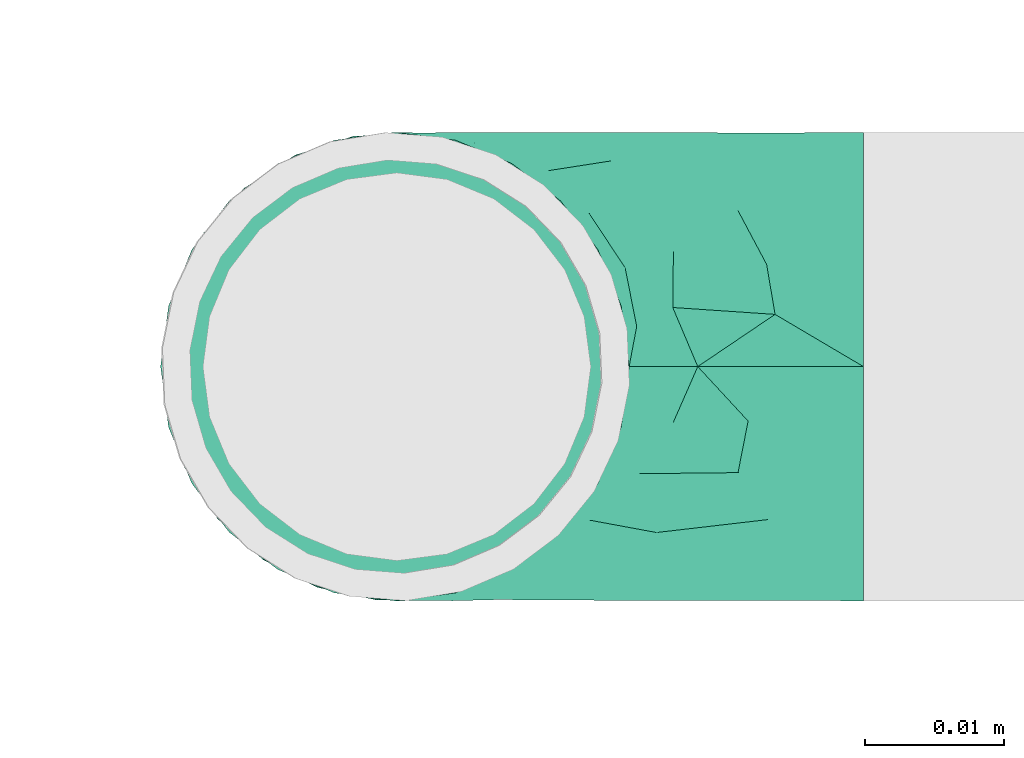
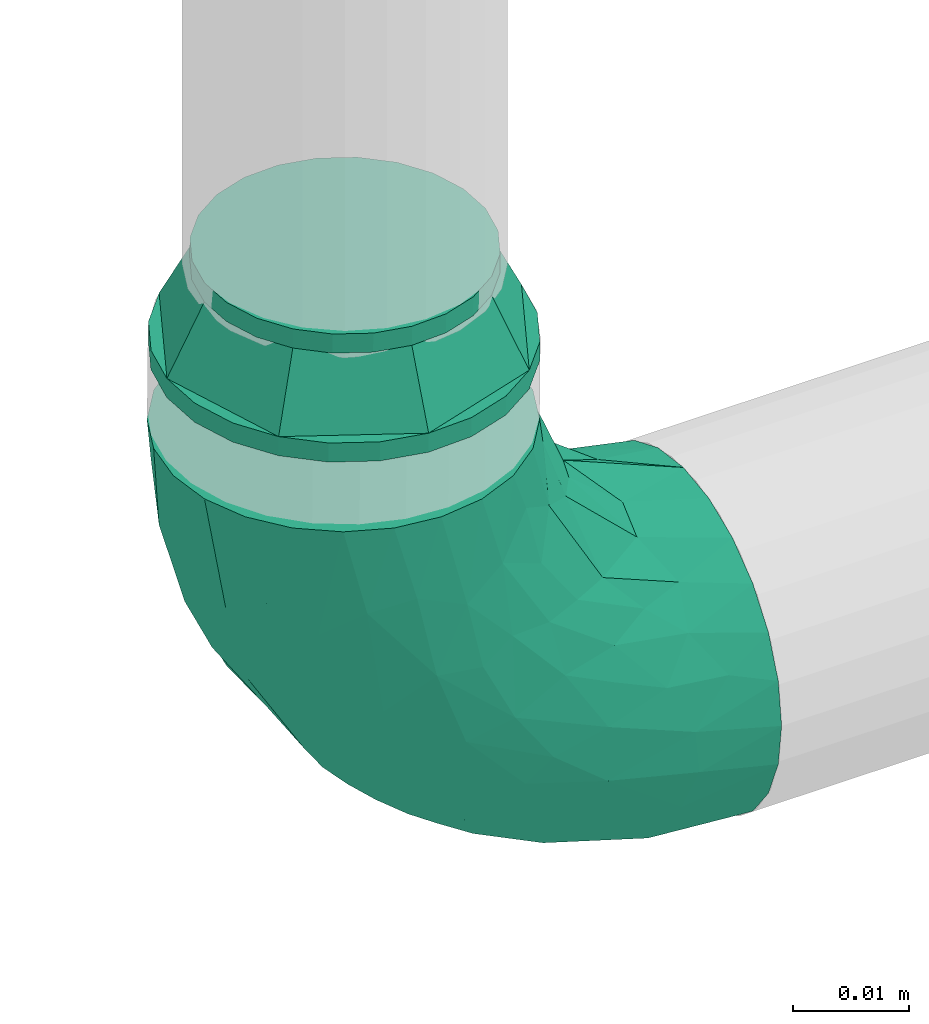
# One storey, part 30 of 43: 2 flow fittings.
"""IFC2X3 building model written with IfcOpenShell, lengths in millimetres."""

from ifc_helpers import new_model, entity, si_unit, converted_unit, derived_unit, direction, frame, origin_with_axes, place, context, subcontext, project, spatial, open_shell, surface_model, source, transform, mapped, type_object, element, save


model = new_model("IFC2X3")

# Units and contexts
model_context = context("Model", 3, precision=0.01, world=frame((0.0, 4.29681676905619e-09, 0.0)), true_north=direction((4.01073788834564e-13, 1.0)))
plan_context = context("Plan", 3, precision=0.01, world=frame((0.0, 4.29681676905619e-09, 0.0)), true_north=direction((4.01073788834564e-13, 1.0)))
body_context = subcontext(model_context, "Body", "Model", "MODEL_VIEW")
ifc_project = project(units=[converted_unit("PLANEANGLEUNIT", "DEGREE", entity("IfcPositiveLengthMeasure", 0.0174532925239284), si_unit("PLANEANGLEUNIT", "RADIAN"), dimensions=[0, 0, 0, 0, 0, 0, 0]), si_unit("AREAUNIT", "SQUARE_METRE"), si_unit("LENGTHUNIT", "METRE", prefix="MILLI"), si_unit("MASSUNIT", "GRAM", prefix="KILO"), si_unit("POWERUNIT", "WATT"), si_unit("PRESSUREUNIT", "PASCAL"), si_unit("FORCEUNIT", "NEWTON", prefix="KILO"), si_unit("ELECTRICVOLTAGEUNIT", "VOLT"), si_unit("ELECTRICCURRENTUNIT", "AMPERE"), si_unit("THERMODYNAMICTEMPERATUREUNIT", "DEGREE_CELSIUS"), si_unit("TIMEUNIT", "SECOND"), si_unit("VOLUMEUNIT", "CUBIC_METRE"), derived_unit("LINEARVELOCITYUNIT", [(si_unit("LENGTHUNIT", "METRE"), 1), (si_unit("TIMEUNIT", "SECOND"), -1)]), derived_unit("VOLUMETRICFLOWRATEUNIT", [(si_unit("VOLUMEUNIT", "CUBIC_METRE"), 1), (si_unit("TIMEUNIT", "SECOND"), -1)]), derived_unit("THERMALTRANSMITTANCEUNIT", [(si_unit("POWERUNIT", "WATT"), 1), (si_unit("THERMODYNAMICTEMPERATUREUNIT", "KELVIN"), -1), (si_unit("AREAUNIT", "SQUARE_METRE"), -1)]), derived_unit("SOUNDPRESSUREUNIT", [(si_unit("PRESSUREUNIT", "PASCAL"), 1)])], contexts=[model_context, plan_context])

# Site, building, storey
site_placement = place(None, frame((0.0, -4.29681676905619e-09, 0.0), z_axis=(0.0, 0.0, 1.0), x_axis=(1.0, 0.0, 0.0)))
site = spatial("IfcSite", under=ifc_project, at=site_placement, CompositionType="ELEMENT")
building_placement = place(site_placement, frame((0.0, 4.29681676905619e-09, 0.0), z_axis=(0.0, 0.0, 1.0), x_axis=(1.0, 0.0, 0.0)))
building = spatial("IfcBuilding", under=site, at=building_placement, Name="mc-building", CompositionType="ELEMENT")
storey_placement = place(building_placement, frame((0.0, 0.0, 210900.0), z_axis=(0.0, 0.0, 1.0), x_axis=(1.0, 0.0, 0.0)))
storey = spatial("IfcBuildingStorey", under=building, at=storey_placement, Name="Nivå F", CompositionType="ELEMENT", Elevation=210900.0)

# Flow fittings
pipe_fitting_type_1 = type_object("IfcPipeFittingType", Name="magi_pipe_fe_elbow_short_001", PredefinedType="BEND")
shared_shape_1 = source(origin_with_axes(), body_context, "Body", "SurfaceModel", [
    surface_model("IfcShellBasedSurfaceModel", [(-33.8, 4.37404, -16.32415), (-33.8, 0.0, -16.9), (-33.8, 11.9501, -11.9501), (-33.8, 8.45, -14.63583), (-33.8, 16.32415, -4.37404), (-33.8, 14.63583, -8.45), (-33.8, -14.63583, -8.45), (-33.8, -16.32415, -4.37404), (-33.8, -8.45, 14.63583), (-33.8, -11.9501, -11.9501), (-33.8, -8.45, -14.63583), (-33.8, -4.37404, -16.32415), (-33.8, -16.9, 0.0), (-33.8, -16.32415, 4.37404), (-33.8, 11.9501, 11.9501), (-33.8, 14.63583, 8.45), (-33.8, 16.32415, 4.37404), (-33.8, 4.37404, 16.32415), (-33.8, 8.45, 14.63583), (-33.8, -14.63583, 8.45), (-33.8, -11.9501, 11.9501), (-33.8, -4.37404, 16.32415), (-33.8, 0.0, 16.9), (-33.8, 16.9, 0.0), (-11.9501, 33.8, -11.9501), (0.0, 33.8, -16.9), (-4.37404, 33.8, -16.32415), (-8.45, 33.8, -14.63583), (-14.63583, 33.8, -8.45), (-16.32415, 33.8, -4.37404), (14.63583, 33.8, -8.45), (8.45, 33.8, 14.63583), (16.32415, 33.8, -4.37404), (8.45, 33.8, -14.63583), (11.9501, 33.8, -11.9501), (4.37404, 33.8, -16.32415), (16.32415, 33.8, 4.37404), (16.9, 33.8, 0.0), (-11.9501, 33.8, 11.9501), (-16.32415, 33.8, 4.37404), (-14.63583, 33.8, 8.45), (-8.45, 33.8, 14.63583), (-4.37404, 33.8, 16.32415), (11.9501, 33.8, 11.9501), (14.63583, 33.8, 8.45), (0.0, 33.8, 16.9), (4.37404, 33.8, 16.32415), (-16.9, 33.8, 0.0), (-24.79389, -13.12945, 9.48721), (-22.19287, -9.75018, 12.59315), (-24.09897, -14.97035, 0.0), (-14.93934, -10.76256, 8.5297), (-22.46095, -14.75051, 5.27077), (14.75051, 22.46094, 5.27077), (11.9251, 13.23888, 4.33236), (13.04069, 14.39795, 0.0), (7.71387, 13.68847, 11.55891), (9.75018, 22.19287, 12.59315), (4.10169, 13.0571, 14.04018), (-24.84007, -6.39063, 15.2048), (-25.81779, -2.23879, 16.61097), (-23.66549, 2.59054, 16.87119), (-26.50418, 14.06512, 11.08152), (-24.21253, 17.66365, 7.72657), (-29.58514, 15.86957, 7.00283), (-6.17382, -7.5455, 0.0), (-13.23888, -11.9251, 4.33236), (-14.39795, -13.04069, 0.0), (-17.81434, 18.87373, 11.97104), (-6.30846, 29.15138, 15.82987), (-2.31622, 25.28002, 16.85849), (-29.23923, 10.23435, 13.77053), (-1.45439, -2.85688, 7.61475), (-0.28326, 0.34872, 10.09509), (-5.74484, -4.04709, 10.4122), (-4.41137, 11.31918, 16.59407), (-8.39727, 3.10034, 15.7812), (-1.72649, 9.1306, 15.53089), (-17.39909, 24.75344, 7.64977), (-26.19233, 20.0512, 0.0), (-28.14518, 17.29657, 4.25857), (-26.05147, 6.6281, 15.96447), (-5.87354, 16.61944, 16.86968), (-12.51807, 12.51807, 16.48937), (-10.06312, 7.38516, 16.81295), (-3.01882, 3.01882, 13.81718), (-13.0571, -4.10169, 14.04018), (-16.82553, -0.15166, 16.38038), (10.76256, 14.93934, 8.5297), (13.12945, 24.79389, 9.48721), (6.39063, 24.84007, 15.2048), (2.23879, 25.81779, 16.61097), (-13.68847, -7.71387, 11.55891), (14.97035, 24.09897, 0.0), (-7.30894, 22.89991, 16.09489), (-10.67958, 26.17414, 14.008), (-12.78295, 18.26924, 15.06066), (-13.88562, 22.45231, 12.93244), (-18.04944, 15.16501, 14.04434), (-23.11658, 20.08178, 4.02986), (-21.84989, 21.84989, 0.0), (-18.55817, 25.48277, 3.93065), (-13.95142, 26.94732, 11.03289), (-18.57098, 7.23906, 16.59756), (-16.58335, 4.14122, 16.89279), (-17.96666, 11.46709, 15.63151), (-9.84453, 17.54304, 16.18938), (0.15166, 16.82553, 16.38038), (-23.27207, 11.47201, 14.23154), (3.84842, 5.86994, 10.70473), (-8.0212, -7.54413, 7.93275), (1.00345, -2.19508, 4.57414), (5.13203, 3.01004, 5.90201), (5.24161, 1.7543, 2.53265), (8.70457, 7.04947, 3.99182), (-20.0512, 26.19233, 0.0), (8.4852, 8.76699, 7.09296), (-4.55488, -6.72064, 4.90681), (2.05031, -2.05031, 0.0), (7.5455, 6.17382, 0.0), (-26.75399, 2.1369, -16.845), (-14.61995, 24.73803, -11.27736), (-28.45274, -13.45335, -9.81895), (-26.00469, 6.63555, -15.96645), (-23.06726, 20.04573, -4.26202), (-13.80647, -4.26506, -14.17873), (-14.67501, -0.21081, -16.07388), (-6.7902, -0.2828, -13.8478), (-24.53586, 11.08096, -14.13417), (-26.72048, 14.00837, -11.05776), (10.0967, 24.44989, -12.75976), (5.83237, 21.40218, -15.03047), (6.66249, 28.54238, -15.38093), (-20.38182, 15.48705, -12.74596), (-15.65186, 19.64213, -13.01327), (-12.03528, 20.66498, -14.67665), (-15.61907, 15.61906, -14.83879), (-25.56551, -15.26206, 0.0), (-24.65452, -15.12934, -5.50955), (12.53268, 21.23441, -9.15363), (13.45335, 28.45274, -9.81895), (15.12934, 24.65452, -5.50955), (-7.35442, -8.31014, -5.65563), (-15.67504, -12.54494, -5.54878), (-24.44989, -10.0967, -12.75976), (0.16522, 0.41303, -9.71728), (-5.70658, -5.33066, -8.89288), (-5.13869, -2.37198, -11.53565), (-21.23441, -12.53268, -9.15363), (0.71146, 7.93863, -14.09382), (0.21081, 14.67501, -16.07388), (3.49291, 14.42772, -14.76381), (-24.89911, -2.13088, -16.591), (-28.54238, -6.66249, -15.38093), (-18.44386, -7.71663, -13.26957), (2.13088, 24.89911, -16.591), (-28.64342, 17.44413, -2.89318), (1.70017, -1.28722, -5.09504), (-16.57067, 26.81947, -7.36596), (-17.69055, 27.4263, -3.76405), (-12.89279, -9.7522, -8.66343), (-5.96611, 5.96611, -15.95814), (-20.53709, 20.09345, -8.28985), (-2.1369, 26.75399, -16.845), (-6.89872, 24.58781, -16.02578), (-10.60739, 26.53157, -13.98044), (-21.40218, -5.83237, -15.03047), (2.93192, 5.89627, -11.55917), (6.89393, 12.61842, -11.82233), (5.58056, 5.95325, -8.79455), (-3.99512, 18.61798, -16.89635), (-9.1383, 9.86148, -16.89041), (-9.99983, 16.02119, -16.39699), (-16.68576, 9.78031, -16.34199), (-27.01915, 16.61158, -7.12979), (15.26206, 25.56551, 0.0), (-18.61798, 3.99512, -16.89635), (-19.37495, 27.82495, 0.0), (9.7522, 12.89279, -8.66343), (-12.61842, -6.89393, -11.82233), (8.31014, 7.35442, -5.65563), (-18.84705, 19.14018, -10.96545), (12.54494, 15.67504, -5.54878)], [open_shell([[[0, 1, 2]], [[3, 0, 2]], [[4, 5, 2]], [[6, 2, 1]], [[2, 7, 8]], [[9, 6, 10]], [[1, 11, 10]], [[10, 6, 1]], [[2, 6, 7]], [[12, 13, 7]], [[4, 2, 14]], [[4, 15, 16]], [[4, 14, 15]], [[17, 18, 14]], [[14, 2, 8]], [[17, 14, 8]], [[19, 20, 13]], [[20, 7, 13]], [[21, 22, 8]], [[20, 8, 7]], [[8, 22, 17]], [[4, 16, 23]], [[24, 25, 26]], [[24, 26, 27]], [[24, 28, 29]], [[25, 24, 30]], [[31, 32, 24]], [[33, 30, 34]], [[33, 35, 25]], [[25, 30, 33]], [[32, 30, 24]], [[32, 36, 37]], [[38, 24, 29]], [[39, 40, 29]], [[40, 38, 29]], [[38, 41, 42]], [[38, 31, 24]], [[31, 38, 42]], [[36, 43, 44]], [[36, 32, 43]], [[31, 45, 46]], [[32, 31, 43]], [[42, 45, 31]], [[39, 29, 47]], [[20, 48, 49]], [[13, 12, 50]], [[51, 48, 52]], [[53, 54, 55]], [[48, 20, 19]], [[13, 52, 19]], [[56, 57, 58]], [[49, 8, 20]], [[49, 59, 8]], [[22, 60, 61]], [[62, 63, 64]], [[65, 66, 67]], [[57, 43, 31]], [[62, 68, 63]], [[42, 69, 70]], [[18, 71, 14]], [[21, 60, 22]], [[72, 73, 74]], [[75, 76, 77]], [[14, 62, 15]], [[40, 39, 78]], [[79, 23, 80]], [[64, 16, 15]], [[22, 61, 17]], [[17, 81, 18]], [[82, 83, 84]], [[74, 85, 86]], [[59, 86, 87]], [[88, 89, 57]], [[90, 31, 46]], [[44, 53, 36]], [[46, 45, 91]], [[54, 53, 88]], [[44, 89, 53]], [[92, 86, 49]], [[89, 44, 43]], [[8, 59, 21]], [[53, 55, 93]], [[93, 36, 53]], [[66, 52, 67]], [[94, 82, 70]], [[95, 96, 94]], [[97, 98, 96]], [[79, 99, 100]], [[41, 38, 95]], [[101, 100, 99]], [[68, 78, 63]], [[42, 41, 69]], [[23, 16, 80]], [[95, 94, 69]], [[78, 101, 99]], [[38, 102, 95]], [[70, 45, 42]], [[97, 95, 102]], [[13, 50, 52]], [[90, 57, 31]], [[57, 90, 58]], [[81, 17, 61]], [[103, 104, 84]], [[105, 81, 103]], [[38, 40, 102]], [[106, 96, 83]], [[94, 106, 82]], [[91, 70, 107]], [[71, 62, 14]], [[62, 108, 98]], [[86, 59, 49]], [[67, 52, 50]], [[60, 59, 87]], [[92, 49, 51]], [[86, 85, 76]], [[91, 90, 46]], [[37, 36, 93]], [[107, 77, 58]], [[107, 58, 90]], [[58, 85, 109]], [[110, 74, 92]], [[72, 74, 110]], [[66, 51, 52]], [[72, 111, 112]], [[113, 114, 112]], [[56, 88, 57]], [[52, 48, 19]], [[49, 48, 51]], [[57, 89, 43]], [[53, 89, 88]], [[103, 81, 61]], [[71, 81, 108]], [[16, 64, 80]], [[63, 78, 99]], [[47, 115, 101]], [[101, 115, 100]], [[40, 78, 102]], [[68, 102, 78]], [[97, 96, 95]], [[105, 98, 108]], [[103, 84, 83]], [[107, 70, 82]], [[76, 84, 87]], [[82, 84, 75]], [[70, 91, 45]], [[90, 91, 107]], [[59, 60, 21]], [[61, 60, 87]], [[73, 85, 74]], [[109, 112, 116]], [[103, 61, 104]], [[105, 103, 83]], [[96, 105, 83]], [[81, 105, 108]], [[96, 98, 105]], [[62, 98, 68]], [[61, 87, 104]], [[87, 84, 104]], [[86, 76, 87]], [[77, 76, 85]], [[58, 77, 85]], [[75, 77, 107]], [[82, 75, 107]], [[76, 75, 84]], [[81, 71, 18]], [[62, 71, 108]], [[95, 69, 41]], [[70, 69, 94]], [[62, 64, 15]], [[80, 63, 99]], [[63, 80, 64]], [[80, 99, 79]], [[66, 65, 117]], [[110, 66, 117]], [[112, 114, 116]], [[118, 117, 65]], [[110, 92, 51]], [[112, 111, 113]], [[119, 55, 54]], [[74, 86, 92]], [[58, 109, 56]], [[116, 56, 109]], [[66, 110, 51]], [[72, 110, 117]], [[111, 72, 117]], [[73, 112, 109]], [[117, 118, 111]], [[113, 111, 118]], [[118, 119, 113]], [[114, 119, 54]], [[119, 114, 113]], [[116, 54, 88]], [[54, 116, 114]], [[116, 88, 56]], [[112, 73, 72]], [[85, 73, 109]], [[78, 39, 101]], [[47, 101, 39]], [[102, 68, 97]], [[97, 68, 98]], [[82, 106, 83]], [[94, 96, 106]], [[0, 120, 1]], [[28, 24, 121]], [[9, 122, 6]], [[3, 123, 0]], [[100, 124, 79]], [[125, 126, 127]], [[128, 2, 129]], [[130, 131, 132]], [[128, 129, 133]], [[134, 135, 136]], [[128, 3, 2]], [[67, 137, 138]], [[139, 140, 141]], [[138, 7, 6]], [[142, 65, 143]], [[144, 9, 10]], [[145, 146, 147]], [[143, 138, 148]], [[149, 150, 151]], [[152, 11, 1]], [[10, 153, 144]], [[148, 144, 154]], [[153, 10, 11]], [[35, 155, 25]], [[23, 79, 156]], [[146, 157, 142]], [[158, 159, 29]], [[143, 160, 142]], [[161, 150, 149]], [[29, 28, 158]], [[121, 162, 158]], [[33, 34, 130]], [[25, 163, 26]], [[26, 163, 164]], [[140, 34, 30]], [[24, 27, 165]], [[124, 159, 162]], [[155, 35, 132]], [[153, 152, 166]], [[123, 3, 128]], [[167, 168, 169]], [[170, 155, 150]], [[26, 164, 27]], [[132, 35, 33]], [[140, 130, 34]], [[166, 152, 126]], [[133, 134, 136]], [[2, 5, 129]], [[168, 131, 130]], [[30, 32, 141]], [[170, 171, 172]], [[173, 123, 128]], [[156, 174, 4]], [[165, 27, 164]], [[172, 164, 170]], [[134, 165, 135]], [[122, 138, 6]], [[137, 12, 7]], [[32, 37, 175]], [[168, 130, 139]], [[150, 155, 131]], [[163, 155, 170]], [[151, 168, 149]], [[150, 161, 171]], [[166, 125, 154]], [[122, 144, 148]], [[120, 152, 1]], [[176, 171, 126]], [[176, 126, 152]], [[126, 161, 127]], [[160, 143, 148]], [[137, 7, 138]], [[32, 175, 141]], [[55, 141, 175]], [[174, 129, 5]], [[128, 133, 136]], [[173, 128, 136]], [[120, 123, 176]], [[121, 158, 28]], [[159, 100, 177]], [[164, 172, 135]], [[121, 24, 165]], [[159, 47, 29]], [[79, 124, 156]], [[124, 162, 174]], [[159, 124, 100]], [[178, 169, 168]], [[127, 161, 149]], [[145, 169, 157]], [[146, 142, 160]], [[127, 149, 167]], [[127, 179, 125]], [[129, 174, 162]], [[5, 4, 174]], [[157, 65, 142]], [[67, 138, 143]], [[123, 120, 0]], [[152, 120, 176]], [[155, 163, 25]], [[164, 163, 170]], [[170, 150, 171]], [[173, 136, 172]], [[126, 171, 161]], [[173, 171, 176]], [[171, 173, 172]], [[123, 173, 176]], [[148, 179, 160]], [[127, 147, 179]], [[179, 146, 160]], [[157, 146, 145]], [[169, 178, 180]], [[168, 139, 178]], [[157, 169, 180]], [[169, 145, 167]], [[167, 145, 147]], [[149, 168, 167]], [[162, 181, 129]], [[181, 121, 134]], [[179, 147, 146]], [[167, 147, 127]], [[181, 134, 133]], [[165, 134, 121]], [[164, 135, 165]], [[172, 136, 135]], [[129, 181, 133]], [[121, 181, 162]], [[159, 158, 162]], [[47, 159, 177]], [[174, 156, 124]], [[23, 156, 4]], [[130, 132, 33]], [[155, 132, 131]], [[141, 140, 30]], [[130, 140, 139]], [[152, 153, 11]], [[144, 153, 166]], [[144, 122, 9]], [[138, 122, 148]], [[150, 131, 151]], [[157, 119, 118]], [[67, 143, 65]], [[168, 151, 131]], [[119, 157, 180]], [[157, 118, 65]], [[154, 125, 179]], [[126, 125, 166]], [[148, 154, 179]], [[166, 154, 144]], [[139, 182, 178]], [[141, 182, 139]], [[178, 182, 180]], [[182, 55, 119]], [[141, 55, 182]], [[182, 119, 180]]])]),
])
flow_fitting_1_placement = place(storey_placement, frame((607106.89343, 695825.22914, 2660.0), z_axis=(0.0, -1.0, 0.0), x_axis=(0.0, 0.0, -1.0)))
element("IfcFlowFitting", 1, at=flow_fitting_1_placement, inside=storey, type_object=pipe_fitting_type_1, Name="magi_pipe_fe_elbow_short_001", context=body_context, shape_type="MappedRepresentation", body=[
    mapped(shared_shape_1, transform((0.0, 0.0, 0.0), scale=1.0)),
])
pipe_fitting_type_2 = type_object("IfcPipeFittingType", Name="magi_pipe_fe_reducer_centric_short_NOR", PredefinedType="TRANSITION")
shared_shape_2 = source(origin_with_axes(), body_context, "Body", "SurfaceModel", [
    surface_model("IfcShellBasedSurfaceModel", [(-2.0, 11.9501, 11.9501), (-2.0, 0.0, 16.9), (-2.0, 4.37404, 16.32415), (-2.0, 8.45, 14.63583), (-2.0, 14.63583, 8.45), (-2.0, 16.32415, 4.37404), (-2.0, -16.32415, 4.37404), (-2.0, -8.45, 14.63583), (-2.0, -14.63583, 8.45), (-2.0, -11.9501, 11.9501), (-2.0, -4.37404, 16.32415), (-2.0, -16.32415, -4.37404), (-2.0, -16.9, 0.0), (-2.0, -8.45, -14.63583), (-2.0, 16.32415, -4.37404), (-2.0, 11.9501, -11.9501), (-2.0, 14.63583, -8.45), (-2.0, 8.45, -14.63583), (-2.0, 4.37404, -16.32415), (-2.0, 0.0, -16.9), (-2.0, -11.9501, -11.9501), (-2.0, -14.63583, -8.45), (-2.0, -4.37404, -16.32415), (-2.0, 16.9, 0.0), (0.0, 4.37404, -16.32415), (0.0, 8.45, -14.63583), (0.0, 11.9501, -11.9501), (0.0, 0.0, -16.9), (0.0, 16.32415, -4.37404), (0.0, 16.32415, 4.37404), (0.0, 14.63583, -8.45), (0.0, -8.45, -14.63583), (0.0, -4.37404, -16.32415), (0.0, -11.9501, -11.9501), (0.0, -16.32415, -4.37404), (0.0, -14.63583, -8.45), (0.0, -16.32415, 4.37404), (0.0, 16.9, 0.0), (0.0, 14.63583, 8.45), (0.0, 11.9501, 11.9501), (0.0, 4.37404, 16.32415), (0.0, 8.45, 14.63583), (0.0, 0.0, 16.9), (0.0, -14.63583, 8.45), (0.0, -16.9, 0.0), (0.0, -8.45, 14.63583), (0.0, -11.9501, 11.9501), (0.0, -4.37404, 16.32415), (9.0, 12.94341, -3.46818), (9.0, 3.46818, -12.94341), (9.0, 6.7, -11.60474), (9.0, 9.47523, -9.47523), (9.0, -6.7, -11.60474), (9.0, -12.94341, 3.46818), (9.0, 11.60474, -6.7), (9.0, 0.0, -13.4), (9.0, -3.46818, -12.94341), (9.0, -9.47523, -9.47523), (9.0, -12.94341, -3.46818), (9.0, -11.60474, -6.7), (9.0, 13.4, 0.0), (9.0, 12.94341, 3.46818), (9.0, 11.60474, 6.7), (9.0, 9.47523, 9.47523), (9.0, 0.0, 13.4), (9.0, 6.7, 11.60474), (9.0, 3.46818, 12.94341), (9.0, -6.7, 11.60474), (9.0, -9.47523, 9.47523), (9.0, -11.60474, 6.7), (9.0, -13.4, 0.0), (9.0, -3.46818, 12.94341), (7.0, 0.0, 13.4), (7.0, 3.46818, 12.94341), (7.0, 6.7, 11.60474), (7.0, -3.46818, 12.94341), (7.0, 9.47523, 9.47523), (7.0, 11.60474, 6.7), (7.0, 12.94341, 3.46818), (7.0, -12.94341, 3.46818), (7.0, -9.47523, 9.47523), (7.0, -6.7, 11.60474), (7.0, -11.60474, 6.7), (7.0, -12.94341, -3.46818), (7.0, -13.4, 0.0), (7.0, -6.7, -11.60474), (7.0, 12.94341, -3.46818), (7.0, 9.47523, -9.47523), (7.0, 11.60474, -6.7), (7.0, 6.7, -11.60474), (7.0, 3.46818, -12.94341), (7.0, -9.47523, -9.47523), (7.0, -11.60474, -6.7), (7.0, 0.0, -13.4), (7.0, -3.46818, -12.94341), (7.0, 13.4, 0.0), (0.0, 13.18758, -8.96258), (0.0, 14.42505, -5.97505), (7.0, 10.491, -7.02294), (7.0, 11.50677, -4.57065), (0.0, 15.66253, -2.98753), (7.0, 12.45339, -2.28533), (0.0, 2.98753, -15.66253), (0.0, 5.97505, -14.42505), (0.0, 8.96258, -13.18758), (7.0, 4.73762, -11.43761), (7.0, 7.10642, -10.45642), (7.0, 2.36881, -12.41881), (0.0, -14.42505, -5.97505), (7.0, -11.43761, -4.73762), (7.0, -12.41881, -2.36881), (7.0, -2.36881, -12.41881), (7.0, -10.45642, -7.10642), (0.0, -15.70614, -2.88224), (0.0, -13.18758, -8.96258), (7.0, -4.73762, -11.43761), (7.0, -7.10642, -10.45642), (0.0, -5.97505, -14.42505), (0.0, -2.98753, -15.66253), (0.0, -8.96258, -13.18758), (0.0, -13.18758, 8.96258), (0.0, -14.42505, 5.97505), (7.0, -10.491, 7.02294), (7.0, -11.50677, 4.57065), (0.0, -15.66253, 2.98753), (7.0, -12.45339, 2.28533), (0.0, -2.98753, 15.66253), (0.0, -5.97505, 14.42505), (0.0, -8.96258, 13.18758), (7.0, -4.73762, 11.43761), (7.0, -7.10642, 10.45642), (7.0, -2.36881, 12.41881), (0.0, 14.42505, 5.97505), (7.0, 11.43761, 4.73762), (7.0, 12.41881, 2.36881), (7.0, 2.36881, 12.41881), (7.0, 10.45642, 7.10642), (0.0, 15.70614, 2.88224), (0.0, 13.18758, 8.96258), (7.0, 4.73762, 11.43761), (7.0, 7.10642, 10.45642), (0.0, 5.97505, 14.42505), (0.0, 2.98753, 15.66253), (0.0, 8.96258, 13.18758)], [open_shell([[[0, 1, 2]], [[0, 2, 3]], [[0, 4, 5]], [[0, 5, 1]], [[1, 5, 6]], [[7, 8, 9]], [[7, 10, 1]], [[8, 7, 1]], [[1, 6, 8]], [[6, 11, 12]], [[6, 5, 13]], [[5, 14, 15]], [[15, 14, 16]], [[15, 17, 18]], [[13, 5, 15]], [[19, 15, 18]], [[11, 20, 21]], [[20, 11, 13]], [[13, 19, 22]], [[11, 6, 13]], [[15, 19, 13]], [[5, 23, 14]], [[24, 25, 26]], [[27, 24, 26]], [[26, 28, 29]], [[28, 26, 30]], [[26, 29, 31]], [[27, 31, 32]], [[27, 26, 31]], [[33, 34, 35]], [[34, 33, 31]], [[31, 36, 34]], [[29, 28, 37]], [[29, 38, 39]], [[29, 39, 40]], [[40, 36, 31]], [[40, 39, 41]], [[36, 40, 42]], [[42, 43, 36]], [[44, 34, 36]], [[43, 45, 46]], [[43, 42, 45]], [[45, 42, 47]], [[31, 29, 40]], [[11, 34, 12]], [[21, 35, 11]], [[31, 20, 13]], [[21, 20, 33]], [[32, 13, 22]], [[11, 35, 34]], [[34, 44, 12]], [[32, 31, 13]], [[33, 20, 31]], [[33, 35, 21]], [[27, 32, 22]], [[22, 19, 27]], [[18, 24, 19]], [[17, 25, 18]], [[30, 15, 16]], [[17, 15, 26]], [[28, 16, 14]], [[17, 26, 25]], [[25, 24, 18]], [[37, 28, 14]], [[30, 16, 28]], [[30, 26, 15]], [[23, 37, 14]], [[19, 24, 27]], [[5, 29, 23]], [[4, 38, 5]], [[41, 0, 3]], [[4, 0, 39]], [[40, 3, 2]], [[5, 38, 29]], [[29, 37, 23]], [[40, 41, 3]], [[39, 0, 41]], [[39, 38, 4]], [[42, 40, 2]], [[2, 1, 42]], [[10, 47, 1]], [[7, 45, 10]], [[43, 9, 8]], [[7, 9, 46]], [[36, 8, 6]], [[7, 46, 45]], [[45, 47, 10]], [[44, 36, 6]], [[43, 8, 36]], [[43, 46, 9]], [[12, 44, 6]], [[1, 47, 42]], [[33, 44, 27]], [[42, 39, 46]], [[39, 27, 44]], [[44, 46, 39]], [[48, 49, 50]], [[48, 50, 51]], [[52, 49, 53]], [[48, 51, 54]], [[49, 48, 53]], [[55, 52, 56]], [[55, 49, 52]], [[57, 58, 59]], [[53, 58, 57]], [[57, 52, 53]], [[48, 60, 53]], [[61, 62, 63]], [[61, 63, 64]], [[65, 66, 64]], [[65, 64, 63]], [[61, 64, 67]], [[53, 68, 69]], [[70, 58, 53]], [[53, 67, 68]], [[53, 61, 67]], [[71, 67, 64]], [[53, 60, 61]], [[72, 73, 74]], [[75, 72, 74]], [[76, 77, 78]], [[74, 76, 75]], [[78, 79, 76]], [[75, 80, 81]], [[80, 75, 79]], [[80, 79, 82]], [[75, 76, 79]], [[79, 83, 84]], [[79, 78, 85]], [[86, 87, 78]], [[87, 86, 88]], [[89, 85, 78]], [[78, 87, 89]], [[85, 89, 90]], [[83, 91, 92]], [[83, 79, 91]], [[85, 93, 94]], [[79, 85, 91]], [[90, 93, 85]], [[95, 86, 78]], [[83, 58, 84]], [[92, 59, 83]], [[52, 91, 85]], [[92, 91, 57]], [[56, 85, 94]], [[83, 59, 58]], [[58, 70, 84]], [[56, 52, 85]], [[57, 91, 52]], [[57, 59, 92]], [[55, 56, 94]], [[94, 93, 55]], [[90, 49, 93]], [[89, 50, 90]], [[54, 87, 88]], [[89, 87, 51]], [[48, 88, 86]], [[89, 51, 50]], [[50, 49, 90]], [[60, 48, 86]], [[54, 88, 48]], [[54, 51, 87]], [[95, 60, 86]], [[93, 49, 55]], [[78, 61, 95]], [[77, 62, 78]], [[65, 76, 74]], [[77, 76, 63]], [[66, 74, 73]], [[78, 62, 61]], [[61, 60, 95]], [[66, 65, 74]], [[63, 76, 65]], [[63, 62, 77]], [[64, 66, 73]], [[73, 72, 64]], [[75, 71, 72]], [[81, 67, 75]], [[69, 80, 82]], [[81, 80, 68]], [[53, 82, 79]], [[81, 68, 67]], [[67, 71, 75]], [[70, 53, 79]], [[69, 82, 53]], [[69, 68, 80]], [[84, 70, 79]], [[72, 71, 64]], [[72, 80, 95]], [[95, 76, 72]], [[80, 91, 95]], [[91, 93, 95]], [[87, 95, 93]], [[80, 84, 91]], [[26, 27, 39]], [[39, 37, 26]], [[96, 97, 98]], [[99, 100, 101]], [[37, 95, 101]], [[93, 27, 102]], [[103, 104, 105]], [[104, 26, 106]], [[87, 26, 96]], [[103, 107, 102]], [[108, 109, 110]], [[37, 101, 100]], [[27, 93, 111]], [[112, 33, 91]], [[110, 84, 113]], [[109, 114, 112]], [[33, 112, 114]], [[115, 116, 117]], [[115, 118, 111]], [[93, 102, 107]], [[116, 91, 119]], [[27, 111, 118]], [[97, 99, 98]], [[87, 96, 98]], [[100, 99, 97]], [[26, 87, 106]], [[105, 104, 106]], [[107, 103, 105]], [[84, 44, 113]], [[108, 110, 113]], [[114, 109, 108]], [[91, 33, 119]], [[117, 116, 119]], [[118, 115, 117]], [[120, 121, 122]], [[123, 124, 125]], [[44, 84, 125]], [[72, 42, 126]], [[127, 128, 129]], [[128, 46, 130]], [[80, 46, 120]], [[127, 131, 126]], [[132, 133, 134]], [[44, 125, 124]], [[42, 72, 135]], [[136, 39, 76]], [[134, 95, 137]], [[133, 138, 136]], [[39, 136, 138]], [[139, 140, 141]], [[139, 142, 135]], [[72, 126, 131]], [[140, 76, 143]], [[42, 135, 142]], [[121, 123, 122]], [[80, 120, 122]], [[124, 123, 121]], [[46, 80, 130]], [[129, 128, 130]], [[131, 127, 129]], [[95, 37, 137]], [[132, 134, 137]], [[138, 133, 132]], [[76, 39, 143]], [[141, 140, 143]], [[142, 139, 141]]])]),
])
flow_fitting_2_placement = place(storey_placement, frame((607106.97608, 695825.22261, 2702.99278), z_axis=(-0.996846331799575, 0.0788420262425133, 0.00901807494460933), x_axis=(0.00899000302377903, -0.00071100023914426, 0.999959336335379)))
element("IfcFlowFitting", 2, at=flow_fitting_2_placement, inside=storey, type_object=pipe_fitting_type_2, Name="magi_pipe_fe_reducer_centric_short_NOR", context=body_context, shape_type="MappedRepresentation", body=[
    mapped(shared_shape_2, transform((0.0, 0.0, 0.0), scale=1.0)),
])

save(model, "model.ifc")
